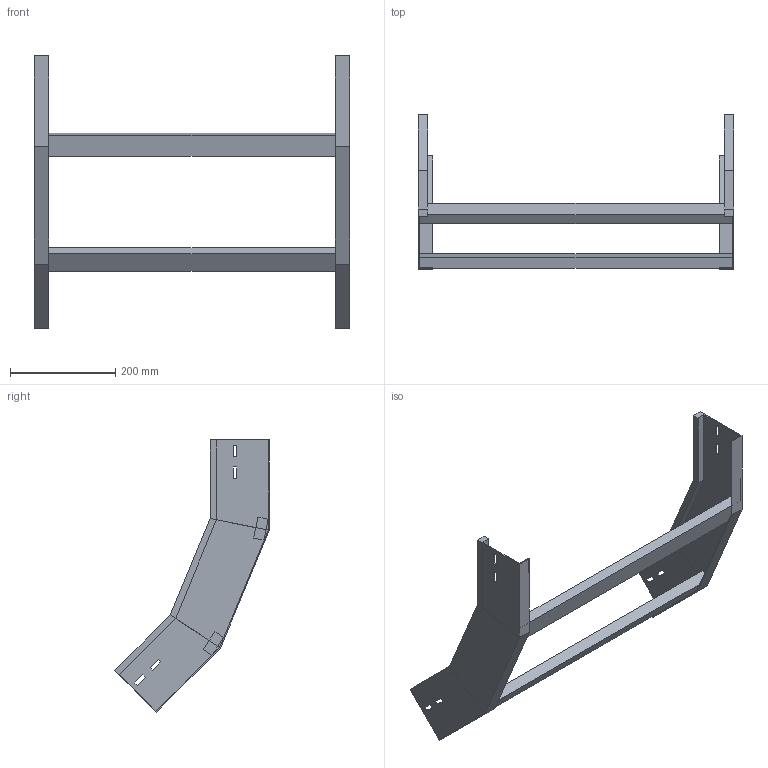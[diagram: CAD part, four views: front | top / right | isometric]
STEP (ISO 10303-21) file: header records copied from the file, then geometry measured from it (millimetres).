
FILE_DESCRIPTION (( 'STEP AP214' ), '1' );
FILE_NAME ('A2X31B5J600XX.step', '2025-03-20T10:07:10', ( '' ), ( '' ), 'SwSTEP 2.0', 'SolidWorks 2023', '' );
FILE_SCHEMA (( 'AUTOMOTIVE_DESIGN' ));
Length unit declared in the file: millimetre
Products named in the file (3): LONGH.SALITA_45°_H112.5_R500; A2X31B5J600XX; TRAVERSINO_600
Assembly tree (4 placements, depth 2):
  A2X31B5J600XX
    LONGH.SALITA_45°_H112.5_R500  x2
    TRAVERSINO_600  x2
Bounding box: 600 x 294.27 x 518.39 mm (x, y, z)
Volume: 1458835.9 mm3; surface area: 487104 mm2
Topology: 4 solids, 4 shells, 96 faces, 232 edges, 144 vertices
Faces by surface type: plane 96
Entity records: 1472 total; most frequent: CARTESIAN_POINT 243, ORIENTED_EDGE 232, DIRECTION 226, LINE 116, EDGE_CURVE 116, VECTOR 116, VERTEX_POINT 72, EDGE_LOOP 56
